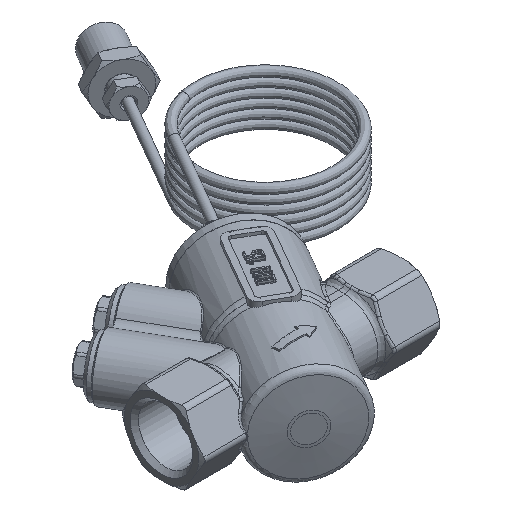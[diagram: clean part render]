
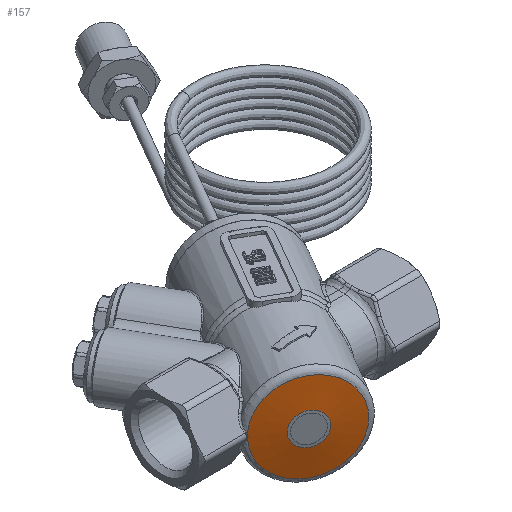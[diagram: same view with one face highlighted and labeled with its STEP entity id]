
A CAD part, isometric view. The second image highlights one B-rep face of the part: STEP entity #157.
In plain terms, the highlighted conical face has half-angle 85 degrees and reference radius 10.358 mm.
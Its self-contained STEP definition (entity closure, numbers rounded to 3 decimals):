
#157=ADVANCED_FACE('',(#2830,#2832),#2834,.T.);
#2830=FACE_OUTER_BOUND('',#2831,.T.);
#2831=EDGE_LOOP('',(#13474));
#2832=FACE_BOUND('',#2833,.T.);
#2833=EDGE_LOOP('',(#13475,#13476,#13477));
#2834=CONICAL_SURFACE('',#2835,10.358,1.484);
#2835=AXIS2_PLACEMENT_3D('',#2836,#2837,#2838);
#2836=CARTESIAN_POINT('',(-12.763,-22.106,0.));
#2837=DIRECTION('',(0.5,0.866,0.));
#2838=DIRECTION('',(0.866,-0.5,0.));
#13474=ORIENTED_EDGE('',*,*,#15848,.F.);
#13475=ORIENTED_EDGE('',*,*,#15754,.F.);
#13476=ORIENTED_EDGE('',*,*,#15749,.T.);
#13477=ORIENTED_EDGE('',*,*,#15752,.F.);
#15749=EDGE_CURVE('',#17102,#17100,#17103,.T.);
#15752=EDGE_CURVE('',#17106,#17100,#17107,.F.);
#15754=EDGE_CURVE('',#17102,#17106,#17109,.F.);
#15848=EDGE_CURVE('',#17256,#17256,#17257,.T.);
#17100=VERTEX_POINT('',#21147);
#17102=VERTEX_POINT('',#21154);
#17103=CIRCLE('',#21155,15.233);
#17106=VERTEX_POINT('',#21174);
#17107=B_SPLINE_CURVE_WITH_KNOTS('',3,
(#21175,#21176,#21177,#21178,#21179,#21180,#21181,#21182),
.UNSPECIFIED.,.F.,.F.,
(4,1,1,1,1,4),
(0.,0.262,0.489,0.693,0.863,1.),
.UNSPECIFIED.);
#17109=B_SPLINE_CURVE_WITH_KNOTS('',3,
(#21192,#21193,#21194,#21195,#21196,#21197,#21198,#21199,#21200,#21201,#21202,#21203,
#21204,#21205,#21206),
.UNSPECIFIED.,.F.,.F.,
(4,1,1,1,1,1,1,1,1,1,1,1,4),
(0.,0.288,0.485,0.586,0.628,0.668,
0.721,0.782,0.843,0.889,0.938,
0.973,1.),
.UNSPECIFIED.);
#17256=VERTEX_POINT('',#22082);
#17257=CIRCLE('',#22083,5.483);
#21147=CARTESIAN_POINT('',(-25.73,-14.127,0.656));
#21154=CARTESIAN_POINT('',(-25.73,-14.127,-0.656));
#21155=AXIS2_PLACEMENT_3D('',#21156,#21157,#21158);
#21156=CARTESIAN_POINT('',(-12.549,-21.736,0.));
#21157=DIRECTION('',(-0.5,-0.866,0.));
#21158=DIRECTION('',(-0.865,0.5,-0.043));
#21174=CARTESIAN_POINT('',(-25.606,-14.215,0.));
#21175=CARTESIAN_POINT('',(-25.73,-14.127,0.656));
#21176=CARTESIAN_POINT('',(-25.712,-14.14,0.602));
#21177=CARTESIAN_POINT('',(-25.674,-14.166,0.501));
#21178=CARTESIAN_POINT('',(-25.639,-14.191,0.35));
#21179=CARTESIAN_POINT('',(-25.618,-14.206,0.217));
#21180=CARTESIAN_POINT('',(-25.608,-14.213,0.101));
#21181=CARTESIAN_POINT('',(-25.606,-14.215,0.031));
#21182=CARTESIAN_POINT('',(-25.606,-14.215,0.));
#21192=CARTESIAN_POINT('',(-25.606,-14.215,0.));
#21193=CARTESIAN_POINT('',(-25.606,-14.215,-0.068));
#21194=CARTESIAN_POINT('',(-25.613,-14.21,-0.182));
#21195=CARTESIAN_POINT('',(-25.634,-14.195,-0.317));
#21196=CARTESIAN_POINT('',(-25.65,-14.184,-0.394));
#21197=CARTESIAN_POINT('',(-25.66,-14.177,-0.435));
#21198=CARTESIAN_POINT('',(-25.667,-14.171,-0.465));
#21199=CARTESIAN_POINT('',(-25.677,-14.164,-0.499));
#21200=CARTESIAN_POINT('',(-25.688,-14.156,-0.536));
#21201=CARTESIAN_POINT('',(-25.698,-14.149,-0.567));
#21202=CARTESIAN_POINT('',(-25.707,-14.143,-0.595));
#21203=CARTESIAN_POINT('',(-25.716,-14.136,-0.619));
#21204=CARTESIAN_POINT('',(-25.724,-14.131,-0.64));
#21205=CARTESIAN_POINT('',(-25.728,-14.128,-0.651));
#21206=CARTESIAN_POINT('',(-25.73,-14.127,-0.656));
#22082=CARTESIAN_POINT('',(-17.725,-19.733,0.));
#22083=AXIS2_PLACEMENT_3D('',#22084,#22085,#22086);
#22084=CARTESIAN_POINT('',(-12.976,-22.475,0.));
#22085=DIRECTION('',(-0.5,-0.866,0.));
#22086=DIRECTION('',(-0.866,0.5,0.));
